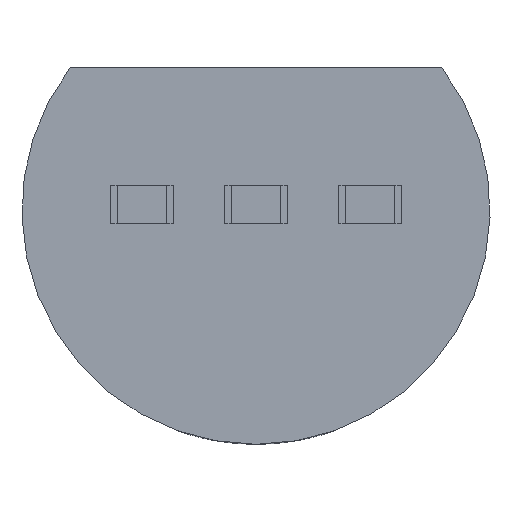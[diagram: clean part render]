
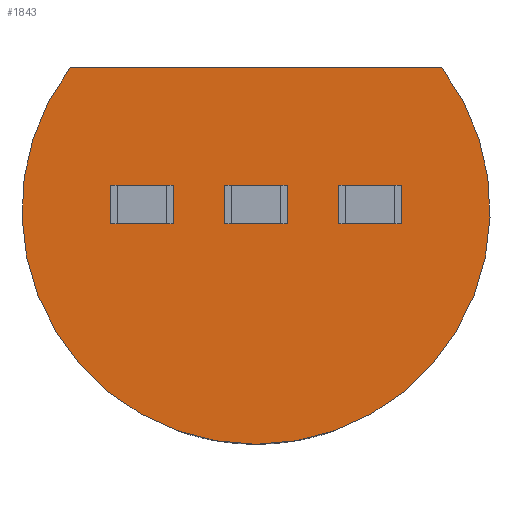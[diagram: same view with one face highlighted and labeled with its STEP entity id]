
A CAD part, front view. The second image highlights one B-rep face of the part: STEP entity #1843.
In plain terms, the highlighted planar face has unit normal (0, -1, 0).
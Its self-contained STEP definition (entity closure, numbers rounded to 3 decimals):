
#58 = EDGE_CURVE ( 'NONE', #373, #121, #61, .T. ) ;
#61 = LINE ( 'NONE', #952, #1181 ) ;
#80 = LINE ( 'NONE', #1476, #1376 ) ;
#88 = CARTESIAN_POINT ( 'NONE',  ( 1.545, 0., 0.28 ) ) ;
#100 = ORIENTED_EDGE ( 'NONE', *, *, #1664, .F. ) ;
#109 = LINE ( 'NONE', #1734, #1728 ) ;
#121 = VERTEX_POINT ( 'NONE', #616 ) ;
#126 = EDGE_LOOP ( 'NONE', ( #128, #1043, #621 ) ) ;
#128 = ORIENTED_EDGE ( 'NONE', *, *, #147, .F. ) ;
#129 = VECTOR ( 'NONE', #334, 1000. ) ;
#134 = LINE ( 'NONE', #201, #1834 ) ;
#147 = EDGE_CURVE ( 'NONE', #689, #1157, #1357, .T. ) ;
#149 = EDGE_LOOP ( 'NONE', ( #100, #715, #1607, #1684 ) ) ;
#172 = ORIENTED_EDGE ( 'NONE', *, *, #1479, .F. ) ;
#181 = LINE ( 'NONE', #776, #311 ) ;
#182 = CARTESIAN_POINT ( 'NONE',  ( -0.275, 0., 0.28 ) ) ;
#201 = CARTESIAN_POINT ( 'NONE',  ( 1.545, 0., -0.15 ) ) ;
#259 = DIRECTION ( 'NONE',  ( 0., 1., 0. ) ) ;
#263 = CARTESIAN_POINT ( 'NONE',  ( -1.545, 0., 0.28 ) ) ;
#265 = CARTESIAN_POINT ( 'NONE',  ( -0.995, 0., 0.28 ) ) ;
#270 = CARTESIAN_POINT ( 'NONE',  ( -1.545, 0., 0.28 ) ) ;
#304 = LINE ( 'NONE', #2167, #1174 ) ;
#311 = VECTOR ( 'NONE', #932, 1000. ) ;
#314 = EDGE_CURVE ( 'NONE', #689, #887, #181, .T. ) ;
#315 = CARTESIAN_POINT ( 'NONE',  ( 0.995, 0., -0.15 ) ) ;
#334 = DIRECTION ( 'NONE',  ( -1., 0., 0. ) ) ;
#357 = CARTESIAN_POINT ( 'NONE',  ( 0.275, 0., 0.28 ) ) ;
#361 = DIRECTION ( 'NONE',  ( 1., 0., 0. ) ) ;
#373 = VERTEX_POINT ( 'NONE', #1314 ) ;
#375 = ORIENTED_EDGE ( 'NONE', *, *, #547, .F. ) ;
#380 = DIRECTION ( 'NONE',  ( 1., 0., 0. ) ) ;
#384 = FACE_OUTER_BOUND ( 'NONE', #126, .T. ) ;
#389 = CARTESIAN_POINT ( 'NONE',  ( -2.067, 0., 1.585 ) ) ;
#460 = DIRECTION ( 'NONE',  ( 0., 0., 1. ) ) ;
#480 = VERTEX_POINT ( 'NONE', #1149 ) ;
#529 = CARTESIAN_POINT ( 'NONE',  ( 2.067, 0., 1.585 ) ) ;
#547 = EDGE_CURVE ( 'NONE', #1073, #1298, #1595, .T. ) ;
#605 = DIRECTION ( 'NONE',  ( 0., 0., 1. ) ) ;
#610 = DIRECTION ( 'NONE',  ( 0., 0., 1. ) ) ;
#613 = VECTOR ( 'NONE', #1201, 1000. ) ;
#616 = CARTESIAN_POINT ( 'NONE',  ( 0.275, 0., -0.15 ) ) ;
#621 = ORIENTED_EDGE ( 'NONE', *, *, #2144, .F. ) ;
#641 = PLANE ( 'NONE',  #2133 ) ;
#689 = VERTEX_POINT ( 'NONE', #529 ) ;
#715 = ORIENTED_EDGE ( 'NONE', *, *, #992, .F. ) ;
#726 = VECTOR ( 'NONE', #959, 1000. ) ;
#727 = EDGE_CURVE ( 'NONE', #480, #856, #109, .T. ) ;
#776 = CARTESIAN_POINT ( 'NONE',  ( 0., 0., 1.585 ) ) ;
#801 = VERTEX_POINT ( 'NONE', #901 ) ;
#810 = FACE_BOUND ( 'NONE', #149, .T. ) ;
#847 = DIRECTION ( 'NONE',  ( 0., 1., 0. ) ) ;
#856 = VERTEX_POINT ( 'NONE', #1244 ) ;
#859 = EDGE_CURVE ( 'NONE', #2074, #1073, #869, .T. ) ;
#869 = LINE ( 'NONE', #1276, #1522 ) ;
#887 = VERTEX_POINT ( 'NONE', #389 ) ;
#890 = LINE ( 'NONE', #265, #1642 ) ;
#901 = CARTESIAN_POINT ( 'NONE',  ( -0.995, 0., 0.28 ) ) ;
#912 = CARTESIAN_POINT ( 'NONE',  ( 1.545, 0., -0.15 ) ) ;
#932 = DIRECTION ( 'NONE',  ( -1., 0., 0. ) ) ;
#937 = EDGE_CURVE ( 'NONE', #1513, #2074, #304, .T. ) ;
#952 = CARTESIAN_POINT ( 'NONE',  ( 0.275, 0., -0.15 ) ) ;
#954 = VECTOR ( 'NONE', #1062, 1000. ) ;
#959 = DIRECTION ( 'NONE',  ( 0., 0., -1. ) ) ;
#985 = AXIS2_PLACEMENT_3D ( 'NONE', #1941, #1755, #1776 ) ;
#986 = CARTESIAN_POINT ( 'NONE',  ( 0., 0., 0. ) ) ;
#992 = EDGE_CURVE ( 'NONE', #801, #1064, #2003, .T. ) ;
#998 = FACE_BOUND ( 'NONE', #1850, .T. ) ;
#1043 = ORIENTED_EDGE ( 'NONE', *, *, #314, .T. ) ;
#1062 = DIRECTION ( 'NONE',  ( 0., 0., -1. ) ) ;
#1064 = VERTEX_POINT ( 'NONE', #270 ) ;
#1067 = VERTEX_POINT ( 'NONE', #1795 ) ;
#1073 = VERTEX_POINT ( 'NONE', #1460 ) ;
#1107 = CARTESIAN_POINT ( 'NONE',  ( 0., 0., 0. ) ) ;
#1124 = DIRECTION ( 'NONE',  ( -1., 0., 0. ) ) ;
#1149 = CARTESIAN_POINT ( 'NONE',  ( -1.545, 0., -0.15 ) ) ;
#1157 = VERTEX_POINT ( 'NONE', #1234 ) ;
#1174 = VECTOR ( 'NONE', #610, 1000. ) ;
#1181 = VECTOR ( 'NONE', #1964, 1000. ) ;
#1201 = DIRECTION ( 'NONE',  ( 0., 0., -1. ) ) ;
#1217 = DIRECTION ( 'NONE',  ( 0., 0., 1. ) ) ;
#1234 = CARTESIAN_POINT ( 'NONE',  ( 0., 0., -2.605 ) ) ;
#1244 = CARTESIAN_POINT ( 'NONE',  ( -0.995, 0., -0.15 ) ) ;
#1276 = CARTESIAN_POINT ( 'NONE',  ( 1.545, 0., 0.28 ) ) ;
#1298 = VERTEX_POINT ( 'NONE', #315 ) ;
#1314 = CARTESIAN_POINT ( 'NONE',  ( -0.275, 0., -0.15 ) ) ;
#1357 = CIRCLE ( 'NONE', #985, 2.605 ) ;
#1376 = VECTOR ( 'NONE', #460, 1000. ) ;
#1390 = CARTESIAN_POINT ( 'NONE',  ( 0.275, 0., 0.28 ) ) ;
#1392 = EDGE_CURVE ( 'NONE', #1298, #1513, #134, .T. ) ;
#1404 = LINE ( 'NONE', #182, #954 ) ;
#1446 = DIRECTION ( 'NONE',  ( 0., 0., 1. ) ) ;
#1460 = CARTESIAN_POINT ( 'NONE',  ( 0.995, 0., 0.28 ) ) ;
#1473 = AXIS2_PLACEMENT_3D ( 'NONE', #1107, #259, #605 ) ;
#1476 = CARTESIAN_POINT ( 'NONE',  ( 0.275, 0., 0.28 ) ) ;
#1479 = EDGE_CURVE ( 'NONE', #1067, #373, #1404, .T. ) ;
#1513 = VERTEX_POINT ( 'NONE', #912 ) ;
#1522 = VECTOR ( 'NONE', #1927, 1000. ) ;
#1589 = CIRCLE ( 'NONE', #1473, 2.605 ) ;
#1595 = LINE ( 'NONE', #1698, #613 ) ;
#1607 = ORIENTED_EDGE ( 'NONE', *, *, #2050, .F. ) ;
#1627 = ORIENTED_EDGE ( 'NONE', *, *, #58, .F. ) ;
#1642 = VECTOR ( 'NONE', #1446, 1000. ) ;
#1652 = EDGE_CURVE ( 'NONE', #121, #1993, #80, .T. ) ;
#1664 = EDGE_CURVE ( 'NONE', #1064, #480, #1754, .T. ) ;
#1684 = ORIENTED_EDGE ( 'NONE', *, *, #727, .F. ) ;
#1698 = CARTESIAN_POINT ( 'NONE',  ( 0.995, 0., 0.28 ) ) ;
#1728 = VECTOR ( 'NONE', #380, 1000. ) ;
#1734 = CARTESIAN_POINT ( 'NONE',  ( -1.545, 0., -0.15 ) ) ;
#1754 = LINE ( 'NONE', #263, #726 ) ;
#1755 = DIRECTION ( 'NONE',  ( 0., 1., 0. ) ) ;
#1776 = DIRECTION ( 'NONE',  ( 0., 0., 1. ) ) ;
#1795 = CARTESIAN_POINT ( 'NONE',  ( -0.275, 0., 0.28 ) ) ;
#1798 = ORIENTED_EDGE ( 'NONE', *, *, #1921, .F. ) ;
#1834 = VECTOR ( 'NONE', #361, 1000. ) ;
#1843 = ADVANCED_FACE ( 'NONE', ( #998, #384, #2028, #810 ), #641, .F. ) ;
#1844 = ORIENTED_EDGE ( 'NONE', *, *, #859, .F. ) ;
#1850 = EDGE_LOOP ( 'NONE', ( #375, #1844, #2174, #1874 ) ) ;
#1874 = ORIENTED_EDGE ( 'NONE', *, *, #1392, .F. ) ;
#1878 = ORIENTED_EDGE ( 'NONE', *, *, #1652, .F. ) ;
#1921 = EDGE_CURVE ( 'NONE', #1993, #1067, #2058, .T. ) ;
#1927 = DIRECTION ( 'NONE',  ( -1., 0., 0. ) ) ;
#1931 = EDGE_LOOP ( 'NONE', ( #172, #1798, #1878, #1627 ) ) ;
#1941 = CARTESIAN_POINT ( 'NONE',  ( 0., 0., 0. ) ) ;
#1964 = DIRECTION ( 'NONE',  ( 1., 0., 0. ) ) ;
#1977 = CARTESIAN_POINT ( 'NONE',  ( -1.545, 0., 0.28 ) ) ;
#1993 = VERTEX_POINT ( 'NONE', #1390 ) ;
#2003 = LINE ( 'NONE', #1977, #2092 ) ;
#2028 = FACE_BOUND ( 'NONE', #1931, .T. ) ;
#2050 = EDGE_CURVE ( 'NONE', #856, #801, #890, .T. ) ;
#2058 = LINE ( 'NONE', #357, #129 ) ;
#2074 = VERTEX_POINT ( 'NONE', #88 ) ;
#2092 = VECTOR ( 'NONE', #1124, 1000. ) ;
#2133 = AXIS2_PLACEMENT_3D ( 'NONE', #986, #847, #1217 ) ;
#2144 = EDGE_CURVE ( 'NONE', #1157, #887, #1589, .T. ) ;
#2167 = CARTESIAN_POINT ( 'NONE',  ( 1.545, 0., 0.28 ) ) ;
#2174 = ORIENTED_EDGE ( 'NONE', *, *, #937, .F. ) ;
